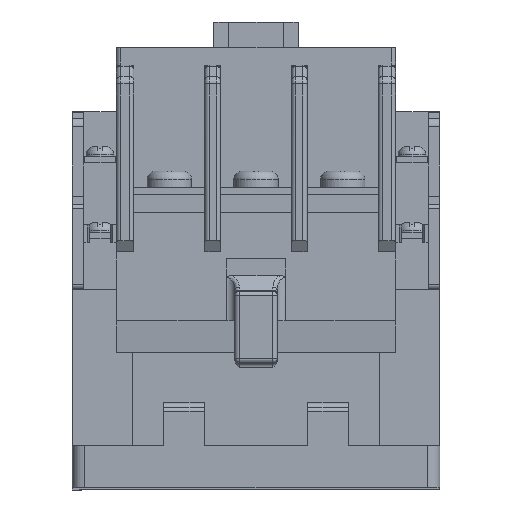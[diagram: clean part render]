
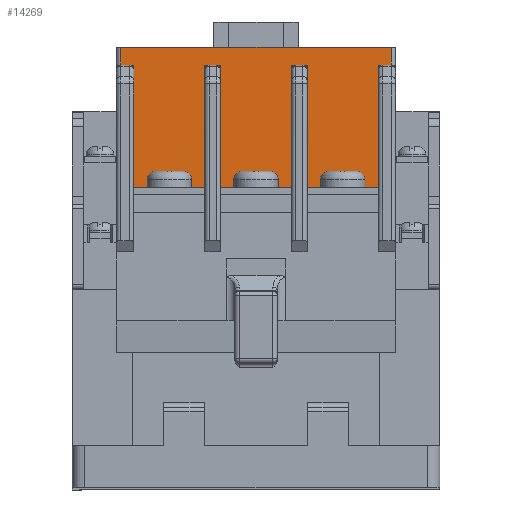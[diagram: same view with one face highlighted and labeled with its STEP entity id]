
A CAD part, front view. The second image highlights one B-rep face of the part: STEP entity #14269.
In plain terms, the highlighted planar face has unit normal (0, -1, 0).
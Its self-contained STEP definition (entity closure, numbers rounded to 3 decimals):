
#5234 = CARTESIAN_POINT ( 'NONE',  ( 12.1, -29.9, 4.2 ) ) ;
#5235 = DIRECTION ( 'NONE',  ( 1., 0., 0. ) ) ;
#5236 = VECTOR ( 'NONE', #5235, 1000. ) ;
#5237 = CARTESIAN_POINT ( 'NONE',  ( -32., -29.9, 4.2 ) ) ;
#5238 = LINE ( 'NONE', #5237, #5236 ) ;
#5239 = CARTESIAN_POINT ( 'NONE',  ( 8.4, -29.9, 4.2 ) ) ;
#5267 = CARTESIAN_POINT ( 'NONE',  ( -8.4, -29.9, 4.2 ) ) ;
#5268 = DIRECTION ( 'NONE',  ( 1., 0., 0. ) ) ;
#5269 = VECTOR ( 'NONE', #5268, 1000. ) ;
#5270 = CARTESIAN_POINT ( 'NONE',  ( -32., -29.9, 4.2 ) ) ;
#5271 = LINE ( 'NONE', #5270, #5269 ) ;
#5273 = CARTESIAN_POINT ( 'NONE',  ( -12.1, -29.9, 4.2 ) ) ;
#5278 = DIRECTION ( 'NONE',  ( 1., 0., 0. ) ) ;
#5279 = VECTOR ( 'NONE', #5278, 1000. ) ;
#5280 = CARTESIAN_POINT ( 'NONE',  ( -32., -29.9, 4.2 ) ) ;
#5281 = LINE ( 'NONE', #5280, #5279 ) ;
#5282 = CARTESIAN_POINT ( 'NONE',  ( 28.9, -29.9, 4.2 ) ) ;
#5392 = CARTESIAN_POINT ( 'NONE',  ( -28.9, -29.9, 4.2 ) ) ;
#5393 = DIRECTION ( 'NONE',  ( 1., 0., 0. ) ) ;
#5394 = VECTOR ( 'NONE', #5393, 1000. ) ;
#5395 = CARTESIAN_POINT ( 'NONE',  ( -32., -29.9, 4.2 ) ) ;
#5396 = LINE ( 'NONE', #5395, #5394 ) ;
#5397 = CARTESIAN_POINT ( 'NONE',  ( -32., -29.9, 4.2 ) ) ;
#5415 = CARTESIAN_POINT ( 'NONE',  ( 32., -29.9, 4.2 ) ) ;
#5454 = DIRECTION ( 'NONE',  ( 1., 0., 0. ) ) ;
#5455 = VECTOR ( 'NONE', #5454, 1000. ) ;
#5456 = CARTESIAN_POINT ( 'NONE',  ( -32., -29.9, 0. ) ) ;
#5457 = LINE ( 'NONE', #5456, #5455 ) ;
#5515 = CARTESIAN_POINT ( 'NONE',  ( -32., -29.9, 0. ) ) ;
#5651 = CARTESIAN_POINT ( 'NONE',  ( 32., -29.9, 0. ) ) ;
#10896 = VERTEX_POINT ( 'NONE', #5239 ) ;
#10898 = EDGE_CURVE ( 'NONE', #10896, #10899, #5238, .T. ) ;
#10899 = VERTEX_POINT ( 'NONE', #5234 ) ;
#10908 = VERTEX_POINT ( 'NONE', #5282 ) ;
#10910 = EDGE_CURVE ( 'NONE', #10908, #10979, #5281, .T. ) ;
#10913 = VERTEX_POINT ( 'NONE', #5273 ) ;
#10916 = EDGE_CURVE ( 'NONE', #10913, #10917, #5271, .T. ) ;
#10917 = VERTEX_POINT ( 'NONE', #5267 ) ;
#10979 = VERTEX_POINT ( 'NONE', #5415 ) ;
#10989 = VERTEX_POINT ( 'NONE', #5397 ) ;
#10991 = EDGE_CURVE ( 'NONE', #10989, #10992, #5396, .T. ) ;
#10992 = VERTEX_POINT ( 'NONE', #5392 ) ;
#11028 = EDGE_CURVE ( 'NONE', #11029, #11115, #5457, .T. ) ;
#11029 = VERTEX_POINT ( 'NONE', #5515 ) ;
#11115 = VERTEX_POINT ( 'NONE', #5651 ) ;
#14185 = EDGE_LOOP ( 'NONE', ( #14186, #14187, #14234, #14236, #14239, #14242, #14244, #14245, #14307, #14310, #14312, #14313, #14230, #14291, #14293, #14294 ) ) ;
#14186 = ORIENTED_EDGE ( 'NONE', *, *, #11028, .T. ) ;
#14187 = ORIENTED_EDGE ( 'NONE', *, *, #14233, .F. ) ;
#14229 = VERTEX_POINT ( 'NONE', #20535 ) ;
#14230 = ORIENTED_EDGE ( 'NONE', *, *, #14231, .F. ) ;
#14231 = EDGE_CURVE ( 'NONE', #14232, #14229, #20534, .T. ) ;
#14232 = VERTEX_POINT ( 'NONE', #20530 ) ;
#14233 = EDGE_CURVE ( 'NONE', #10979, #11115, #20529, .T. ) ;
#14234 = ORIENTED_EDGE ( 'NONE', *, *, #10910, .F. ) ;
#14236 = ORIENTED_EDGE ( 'NONE', *, *, #14237, .F. ) ;
#14237 = EDGE_CURVE ( 'NONE', #14238, #10908, #20521, .T. ) ;
#14238 = VERTEX_POINT ( 'NONE', #20517 ) ;
#14239 = ORIENTED_EDGE ( 'NONE', *, *, #14240, .F. ) ;
#14240 = EDGE_CURVE ( 'NONE', #14241, #14238, #20516, .T. ) ;
#14241 = VERTEX_POINT ( 'NONE', #20512 ) ;
#14242 = ORIENTED_EDGE ( 'NONE', *, *, #14243, .F. ) ;
#14243 = EDGE_CURVE ( 'NONE', #10899, #14241, #20511, .T. ) ;
#14244 = ORIENTED_EDGE ( 'NONE', *, *, #10898, .F. ) ;
#14245 = ORIENTED_EDGE ( 'NONE', *, *, #14305, .F. ) ;
#14266 = EDGE_CURVE ( 'NONE', #10989, #11029, #20601, .T. ) ;
#14269 = ADVANCED_FACE ( 'NONE', ( #20592 ), #20591, .F. ) ;
#14291 = ORIENTED_EDGE ( 'NONE', *, *, #14292, .F. ) ;
#14292 = EDGE_CURVE ( 'NONE', #10992, #14232, #20618, .T. ) ;
#14293 = ORIENTED_EDGE ( 'NONE', *, *, #10991, .F. ) ;
#14294 = ORIENTED_EDGE ( 'NONE', *, *, #14266, .T. ) ;
#14305 = EDGE_CURVE ( 'NONE', #14306, #10896, #20660, .T. ) ;
#14306 = VERTEX_POINT ( 'NONE', #20656 ) ;
#14307 = ORIENTED_EDGE ( 'NONE', *, *, #14308, .F. ) ;
#14308 = EDGE_CURVE ( 'NONE', #14309, #14306, #20655, .T. ) ;
#14309 = VERTEX_POINT ( 'NONE', #20651 ) ;
#14310 = ORIENTED_EDGE ( 'NONE', *, *, #14311, .F. ) ;
#14311 = EDGE_CURVE ( 'NONE', #10917, #14309, #20650, .T. ) ;
#14312 = ORIENTED_EDGE ( 'NONE', *, *, #10916, .F. ) ;
#14313 = ORIENTED_EDGE ( 'NONE', *, *, #14314, .F. ) ;
#14314 = EDGE_CURVE ( 'NONE', #14229, #10913, #20646, .T. ) ;
#20511 = LINE ( 'NONE', #20571, #20570 ) ;
#20512 = CARTESIAN_POINT ( 'NONE',  ( 12.1, -29.9, 34.3 ) ) ;
#20513 = DIRECTION ( 'NONE',  ( 1., 0., 0. ) ) ;
#20514 = VECTOR ( 'NONE', #20513, 1000. ) ;
#20515 = CARTESIAN_POINT ( 'NONE',  ( 28.9, -29.9, 34.3 ) ) ;
#20516 = LINE ( 'NONE', #20515, #20514 ) ;
#20517 = CARTESIAN_POINT ( 'NONE',  ( 28.9, -29.9, 34.3 ) ) ;
#20518 = DIRECTION ( 'NONE',  ( 0., 0., -1. ) ) ;
#20519 = VECTOR ( 'NONE', #20518, 1000. ) ;
#20520 = CARTESIAN_POINT ( 'NONE',  ( 28.9, -29.9, 0. ) ) ;
#20521 = LINE ( 'NONE', #20520, #20519 ) ;
#20526 = DIRECTION ( 'NONE',  ( 0., 0., -1. ) ) ;
#20527 = VECTOR ( 'NONE', #20526, 1000. ) ;
#20528 = CARTESIAN_POINT ( 'NONE',  ( 32., -29.9, 4.2 ) ) ;
#20529 = LINE ( 'NONE', #20528, #20527 ) ;
#20530 = CARTESIAN_POINT ( 'NONE',  ( -28.9, -29.9, 34.3 ) ) ;
#20531 = DIRECTION ( 'NONE',  ( 1., 0., 0. ) ) ;
#20532 = VECTOR ( 'NONE', #20531, 1000. ) ;
#20533 = CARTESIAN_POINT ( 'NONE',  ( -12.1, -29.9, 34.3 ) ) ;
#20534 = LINE ( 'NONE', #20533, #20532 ) ;
#20535 = CARTESIAN_POINT ( 'NONE',  ( -12.1, -29.9, 34.3 ) ) ;
#20569 = DIRECTION ( 'NONE',  ( 0., 0., 1. ) ) ;
#20570 = VECTOR ( 'NONE', #20569, 1000. ) ;
#20571 = CARTESIAN_POINT ( 'NONE',  ( 12.1, -29.9, 0. ) ) ;
#20587 = DIRECTION ( 'NONE',  ( 0., 0., 1. ) ) ;
#20588 = DIRECTION ( 'NONE',  ( 0., 1., 0. ) ) ;
#20589 = CARTESIAN_POINT ( 'NONE',  ( -32., -29.9, 4.2 ) ) ;
#20590 = AXIS2_PLACEMENT_3D ( 'NONE', #20589, #20588, #20587 ) ;
#20591 = PLANE ( 'NONE',  #20590 ) ;
#20592 = FACE_OUTER_BOUND ( 'NONE', #14185, .T. ) ;
#20593 = DIRECTION ( 'NONE',  ( 0., 0., -1. ) ) ;
#20594 = VECTOR ( 'NONE', #20593, 1000. ) ;
#20595 = CARTESIAN_POINT ( 'NONE',  ( -32., -29.9, 4.2 ) ) ;
#20601 = LINE ( 'NONE', #20595, #20594 ) ;
#20615 = DIRECTION ( 'NONE',  ( 0., 0., 1. ) ) ;
#20616 = VECTOR ( 'NONE', #20615, 1000. ) ;
#20617 = CARTESIAN_POINT ( 'NONE',  ( -28.9, -29.9, 0. ) ) ;
#20618 = LINE ( 'NONE', #20617, #20616 ) ;
#20643 = DIRECTION ( 'NONE',  ( 0., 0., -1. ) ) ;
#20644 = VECTOR ( 'NONE', #20643, 1000. ) ;
#20645 = CARTESIAN_POINT ( 'NONE',  ( -12.1, -29.9, 0. ) ) ;
#20646 = LINE ( 'NONE', #20645, #20644 ) ;
#20647 = DIRECTION ( 'NONE',  ( 0., 0., 1. ) ) ;
#20648 = VECTOR ( 'NONE', #20647, 1000. ) ;
#20649 = CARTESIAN_POINT ( 'NONE',  ( -8.4, -29.9, 0. ) ) ;
#20650 = LINE ( 'NONE', #20649, #20648 ) ;
#20651 = CARTESIAN_POINT ( 'NONE',  ( -8.4, -29.9, 34.3 ) ) ;
#20652 = DIRECTION ( 'NONE',  ( 1., 0., 0. ) ) ;
#20653 = VECTOR ( 'NONE', #20652, 1000. ) ;
#20654 = CARTESIAN_POINT ( 'NONE',  ( 8.4, -29.9, 34.3 ) ) ;
#20655 = LINE ( 'NONE', #20654, #20653 ) ;
#20656 = CARTESIAN_POINT ( 'NONE',  ( 8.4, -29.9, 34.3 ) ) ;
#20657 = DIRECTION ( 'NONE',  ( 0., 0., -1. ) ) ;
#20658 = VECTOR ( 'NONE', #20657, 1000. ) ;
#20659 = CARTESIAN_POINT ( 'NONE',  ( 8.4, -29.9, 0. ) ) ;
#20660 = LINE ( 'NONE', #20659, #20658 ) ;
